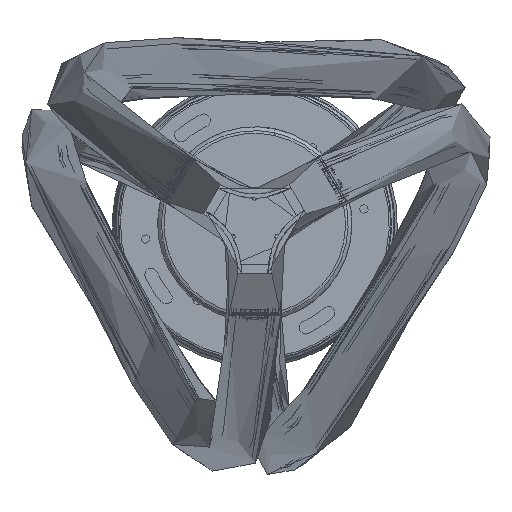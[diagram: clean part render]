
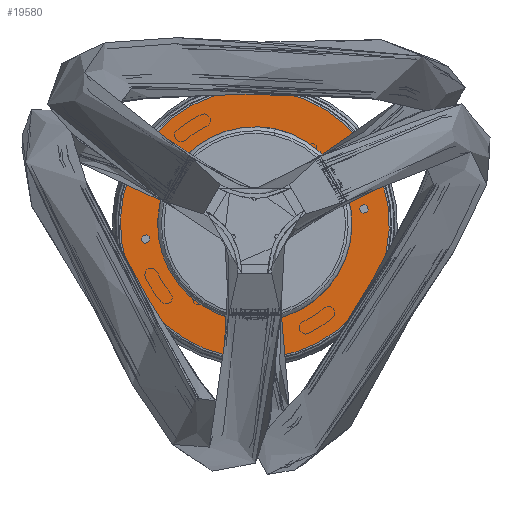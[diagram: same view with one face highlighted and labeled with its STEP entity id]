
A CAD part, front view. The second image highlights one B-rep face of the part: STEP entity #19580.
In plain terms, the highlighted planar face has unit normal (0, -1, 0).
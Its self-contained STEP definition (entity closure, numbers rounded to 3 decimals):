
#123 = DIRECTION ( 'NONE',  ( 0., 1., 0. ) ) ;
#411 = VERTEX_POINT ( 'NONE', #16205 ) ;
#760 = CARTESIAN_POINT ( 'NONE',  ( 0., 0., 0. ) ) ;
#1365 = DIRECTION ( 'NONE',  ( 0., 0., 1. ) ) ;
#1387 = DIRECTION ( 'NONE',  ( 0., 1., 0. ) ) ;
#1443 = CARTESIAN_POINT ( 'NONE',  ( 27., 0., 0. ) ) ;
#1496 = CARTESIAN_POINT ( 'NONE',  ( 0., 0., 0. ) ) ;
#1988 = VERTEX_POINT ( 'NONE', #18969 ) ;
#2033 = EDGE_CURVE ( 'NONE', #10791, #31084, #12673, .T. ) ;
#2314 = DIRECTION ( 'NONE',  ( 0., 0., 1. ) ) ;
#2631 = DIRECTION ( 'NONE',  ( 0., 1., 0. ) ) ;
#2702 = CARTESIAN_POINT ( 'NONE',  ( -39.937, 0., -14.536 ) ) ;
#3181 = AXIS2_PLACEMENT_3D ( 'NONE', #34812, #14952, #38163 ) ;
#3309 = FACE_BOUND ( 'NONE', #35384, .T. ) ;
#3792 = ORIENTED_EDGE ( 'NONE', *, *, #32450, .T. ) ;
#4088 = DIRECTION ( 'NONE',  ( 0., 0., 1. ) ) ;
#4126 = ORIENTED_EDGE ( 'NONE', *, *, #8391, .T. ) ;
#4170 = EDGE_CURVE ( 'NONE', #40651, #27572, #11525, .T. ) ;
#4188 = VERTEX_POINT ( 'NONE', #37124 ) ;
#4757 = DIRECTION ( 'NONE',  ( 0., 0., 1. ) ) ;
#4805 = DIRECTION ( 'NONE',  ( 0., 0., 1. ) ) ;
#4918 = ORIENTED_EDGE ( 'NONE', *, *, #4170, .F. ) ;
#5053 = ORIENTED_EDGE ( 'NONE', *, *, #12074, .T. ) ;
#5243 = ORIENTED_EDGE ( 'NONE', *, *, #37384, .T. ) ;
#5287 = ORIENTED_EDGE ( 'NONE', *, *, #16060, .T. ) ;
#5374 = FACE_BOUND ( 'NONE', #42416, .T. ) ;
#6051 = DIRECTION ( 'NONE',  ( 0., 0., 1. ) ) ;
#6892 = CARTESIAN_POINT ( 'NONE',  ( 27., 0., -2.3 ) ) ;
#7374 = AXIS2_PLACEMENT_3D ( 'NONE', #11794, #35009, #15142 ) ;
#8028 = AXIS2_PLACEMENT_3D ( 'NONE', #19933, #123, #23284 ) ;
#8391 = EDGE_CURVE ( 'NONE', #14830, #411, #39678, .T. ) ;
#9254 = CARTESIAN_POINT ( 'NONE',  ( -39.937, 0., -14.536 ) ) ;
#10791 = VERTEX_POINT ( 'NONE', #25844 ) ;
#11052 = FACE_BOUND ( 'NONE', #17034, .T. ) ;
#11410 = AXIS2_PLACEMENT_3D ( 'NONE', #1443, #24607, #4757 ) ;
#11525 = CIRCLE ( 'NONE', #20282, 51.841 ) ;
#11794 = CARTESIAN_POINT ( 'NONE',  ( 39.937, 0., 14.536 ) ) ;
#11882 = CARTESIAN_POINT ( 'NONE',  ( 39.937, 0., 14.536 ) ) ;
#12074 = EDGE_CURVE ( 'NONE', #42219, #16544, #18749, .T. ) ;
#12550 = DIRECTION ( 'NONE',  ( 0., 0., 1. ) ) ;
#12673 = CIRCLE ( 'NONE', #16352, 1.65 ) ;
#12968 = CIRCLE ( 'NONE', #37773, 1.65 ) ;
#14529 = CARTESIAN_POINT ( 'NONE',  ( 39.937, 0., 16.186 ) ) ;
#14830 = VERTEX_POINT ( 'NONE', #14529 ) ;
#14952 = DIRECTION ( 'NONE',  ( 0., 1., 0. ) ) ;
#15142 = DIRECTION ( 'NONE',  ( 0., 0., 1. ) ) ;
#15226 = DIRECTION ( 'NONE',  ( 0., 0., 1. ) ) ;
#15528 = EDGE_CURVE ( 'NONE', #27572, #40651, #41391, .T. ) ;
#16060 = EDGE_CURVE ( 'NONE', #16544, #42219, #34611, .T. ) ;
#16205 = CARTESIAN_POINT ( 'NONE',  ( 39.937, 0., 12.886 ) ) ;
#16319 = ORIENTED_EDGE ( 'NONE', *, *, #16821, .T. ) ;
#16352 = AXIS2_PLACEMENT_3D ( 'NONE', #9254, #32469, #12550 ) ;
#16544 = VERTEX_POINT ( 'NONE', #6892 ) ;
#16821 = EDGE_CURVE ( 'NONE', #4188, #1988, #17982, .T. ) ;
#17034 = EDGE_LOOP ( 'NONE', ( #3792, #16319 ) ) ;
#17982 = CIRCLE ( 'NONE', #20856, 4.9 ) ;
#18517 = EDGE_LOOP ( 'NONE', ( #31680, #4918 ) ) ;
#18749 = CIRCLE ( 'NONE', #8028, 2.3 ) ;
#18969 = CARTESIAN_POINT ( 'NONE',  ( 0., 0., 4.9 ) ) ;
#18973 = CARTESIAN_POINT ( 'NONE',  ( 0., 0., -51.841 ) ) ;
#19215 = CARTESIAN_POINT ( 'NONE',  ( 27., 0., 2.3 ) ) ;
#19580 = ADVANCED_FACE ( 'NONE', ( #37537, #3309, #5374, #28679, #19864, #11052 ), #24820, .F. ) ;
#19864 = FACE_OUTER_BOUND ( 'NONE', #18517, .T. ) ;
#19933 = CARTESIAN_POINT ( 'NONE',  ( 27., 0., 0. ) ) ;
#20240 = VERTEX_POINT ( 'NONE', #36344 ) ;
#20282 = AXIS2_PLACEMENT_3D ( 'NONE', #760, #23917, #4088 ) ;
#20794 = ORIENTED_EDGE ( 'NONE', *, *, #36540, .T. ) ;
#20856 = AXIS2_PLACEMENT_3D ( 'NONE', #21203, #1387, #24551 ) ;
#20931 = CIRCLE ( 'NONE', #29283, 4.9 ) ;
#21175 = DIRECTION ( 'NONE',  ( 0., 1., 0. ) ) ;
#21203 = CARTESIAN_POINT ( 'NONE',  ( 0., 0., 0. ) ) ;
#21640 = EDGE_LOOP ( 'NONE', ( #27942, #5243 ) ) ;
#22172 = DIRECTION ( 'NONE',  ( 0., 1., 0. ) ) ;
#22335 = CIRCLE ( 'NONE', #32741, 1.65 ) ;
#22479 = CARTESIAN_POINT ( 'NONE',  ( 0., 0., 0. ) ) ;
#23139 = AXIS2_PLACEMENT_3D ( 'NONE', #41040, #21175, #1365 ) ;
#23284 = DIRECTION ( 'NONE',  ( 0., 0., 1. ) ) ;
#23917 = DIRECTION ( 'NONE',  ( 0., 1., 0. ) ) ;
#24091 = EDGE_CURVE ( 'NONE', #24179, #20240, #31072, .T. ) ;
#24179 = VERTEX_POINT ( 'NONE', #25769 ) ;
#24551 = DIRECTION ( 'NONE',  ( 0., 0., 1. ) ) ;
#24607 = DIRECTION ( 'NONE',  ( 0., 1., 0. ) ) ;
#24653 = DIRECTION ( 'NONE',  ( 0., 1., 0. ) ) ;
#24820 = PLANE ( 'NONE',  #3181 ) ;
#25769 = CARTESIAN_POINT ( 'NONE',  ( -27., 0., 2.3 ) ) ;
#25809 = DIRECTION ( 'NONE',  ( 0., 0., 1. ) ) ;
#25844 = CARTESIAN_POINT ( 'NONE',  ( -39.937, 0., -12.886 ) ) ;
#25876 = DIRECTION ( 'NONE',  ( 0., 1., 0. ) ) ;
#26303 = AXIS2_PLACEMENT_3D ( 'NONE', #42013, #22172, #2314 ) ;
#26391 = AXIS2_PLACEMENT_3D ( 'NONE', #1496, #24653, #4805 ) ;
#26517 = EDGE_LOOP ( 'NONE', ( #31346, #35351 ) ) ;
#27572 = VERTEX_POINT ( 'NONE', #38090 ) ;
#27626 = CARTESIAN_POINT ( 'NONE',  ( -39.937, 0., -16.186 ) ) ;
#27942 = ORIENTED_EDGE ( 'NONE', *, *, #2033, .T. ) ;
#28679 = FACE_BOUND ( 'NONE', #26517, .T. ) ;
#29283 = AXIS2_PLACEMENT_3D ( 'NONE', #22479, #2631, #25809 ) ;
#30078 = EDGE_CURVE ( 'NONE', #20240, #24179, #38233, .T. ) ;
#31072 = CIRCLE ( 'NONE', #26303, 2.3 ) ;
#31084 = VERTEX_POINT ( 'NONE', #27626 ) ;
#31346 = ORIENTED_EDGE ( 'NONE', *, *, #24091, .T. ) ;
#31680 = ORIENTED_EDGE ( 'NONE', *, *, #15528, .F. ) ;
#32450 = EDGE_CURVE ( 'NONE', #1988, #4188, #20931, .T. ) ;
#32469 = DIRECTION ( 'NONE',  ( 0., 1., 0. ) ) ;
#32741 = AXIS2_PLACEMENT_3D ( 'NONE', #11882, #35088, #15226 ) ;
#34611 = CIRCLE ( 'NONE', #11410, 2.3 ) ;
#34812 = CARTESIAN_POINT ( 'NONE',  ( -4.9, 0., 0. ) ) ;
#35009 = DIRECTION ( 'NONE',  ( 0., 1., 0. ) ) ;
#35088 = DIRECTION ( 'NONE',  ( 0., 1., 0. ) ) ;
#35351 = ORIENTED_EDGE ( 'NONE', *, *, #30078, .T. ) ;
#35384 = EDGE_LOOP ( 'NONE', ( #4126, #20794 ) ) ;
#36344 = CARTESIAN_POINT ( 'NONE',  ( -27., 0., -2.3 ) ) ;
#36540 = EDGE_CURVE ( 'NONE', #411, #14830, #22335, .T. ) ;
#37124 = CARTESIAN_POINT ( 'NONE',  ( 0., 0., -4.9 ) ) ;
#37384 = EDGE_CURVE ( 'NONE', #31084, #10791, #12968, .T. ) ;
#37537 = FACE_BOUND ( 'NONE', #21640, .T. ) ;
#37773 = AXIS2_PLACEMENT_3D ( 'NONE', #2702, #25876, #6051 ) ;
#38090 = CARTESIAN_POINT ( 'NONE',  ( 0., 0., 51.841 ) ) ;
#38163 = DIRECTION ( 'NONE',  ( 0., 0., 1. ) ) ;
#38233 = CIRCLE ( 'NONE', #23139, 2.3 ) ;
#39678 = CIRCLE ( 'NONE', #7374, 1.65 ) ;
#40651 = VERTEX_POINT ( 'NONE', #18973 ) ;
#41040 = CARTESIAN_POINT ( 'NONE',  ( -27., 0., 0. ) ) ;
#41391 = CIRCLE ( 'NONE', #26391, 51.841 ) ;
#42013 = CARTESIAN_POINT ( 'NONE',  ( -27., 0., 0. ) ) ;
#42219 = VERTEX_POINT ( 'NONE', #19215 ) ;
#42416 = EDGE_LOOP ( 'NONE', ( #5053, #5287 ) ) ;
